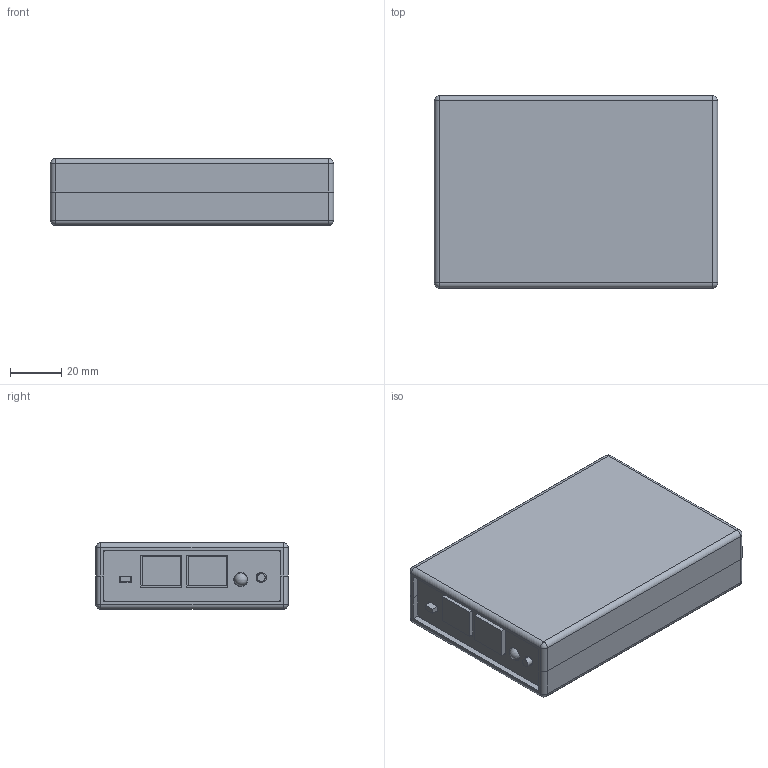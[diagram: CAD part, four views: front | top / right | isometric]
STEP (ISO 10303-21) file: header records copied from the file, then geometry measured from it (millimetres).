
FILE_DESCRIPTION(/* description */ ('Alibre Inc.'),/* implementation_level */ '2;1');
FILE_NAME(/* name */ 'export0',/* time_stamp */ '2014-05-13T08:03:36+02:00',/* author */ (''),/* organization */ (''),/* preprocessor_version */ 'ST-DEVELOPER v14',/* originating_system */ 'Alibre',/* authorisation */ '');
FILE_SCHEMA (('AUTOMOTIVE_DESIGN'));
Length unit declared in the file: centimetre
Bounding box: 110.5 x 75 x 26 mm (x, y, z)
Volume: 84552 mm3; surface area: 67323.5 mm2
Topology: 6 solids, 6 shells, 169 faces, 376 edges, 236 vertices
Faces by surface type: plane 102, cylinder 58, sphere 9
Full cylindrical faces by diameter (mm): 3 x19, 4 x1, 5 x13, 5.5 x1
Entity records: 3393 total; most frequent: CARTESIAN_POINT 563, ORIENTED_EDGE 518, DIRECTION 511, EDGE_CURVE 258, AXIS2_PLACEMENT_3D 208, EDGE_LOOP 182, FACE_BOUND 182, VERTEX_POINT 181
